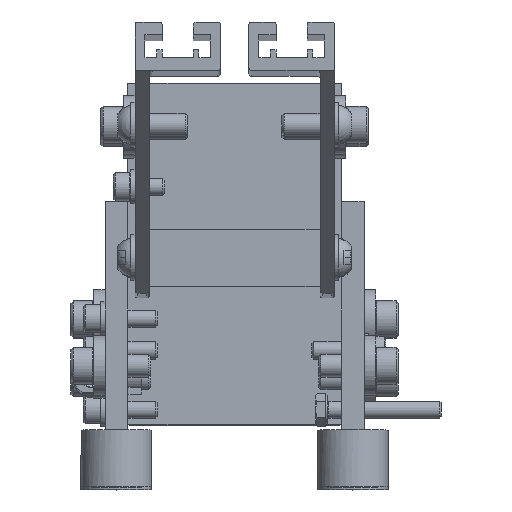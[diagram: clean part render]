
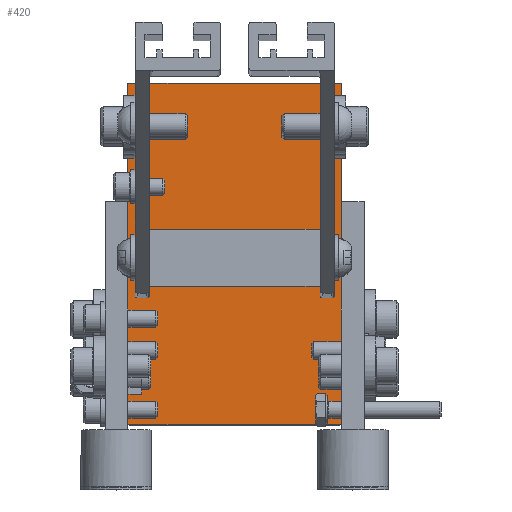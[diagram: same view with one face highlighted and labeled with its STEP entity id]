
A CAD part, top view. The second image highlights one B-rep face of the part: STEP entity #420.
In plain terms, the highlighted planar face has unit normal (0, 0, 1).
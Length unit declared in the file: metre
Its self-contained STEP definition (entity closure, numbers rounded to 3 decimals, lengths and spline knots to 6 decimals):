
#420 = ADVANCED_FACE( 'NONE', ( #1430 ), #1431, .T. );
#1430 = FACE_OUTER_BOUND( '', #2662, .T. );
#1431 = PLANE( '', #2663 );
#2662 = EDGE_LOOP( '', ( #5214, #5215, #5216, #5217, #5218, #5219, #5220, #5221, #5222, #5223 ) );
#2663 = AXIS2_PLACEMENT_3D( '', #5224, #5225, #5226 );
#5214 = ORIENTED_EDGE( '', *, *, #6226, .F. );
#5215 = ORIENTED_EDGE( '', *, *, #6141, .T. );
#5216 = ORIENTED_EDGE( '', *, *, #6344, .T. );
#5217 = ORIENTED_EDGE( '', *, *, #6149, .T. );
#5218 = ORIENTED_EDGE( '', *, *, #6240, .F. );
#5219 = ORIENTED_EDGE( '', *, *, #6345, .T. );
#5220 = ORIENTED_EDGE( '', *, *, #6155, .T. );
#5221 = ORIENTED_EDGE( '', *, *, #6273, .F. );
#5222 = ORIENTED_EDGE( '', *, *, #6096, .F. );
#5223 = ORIENTED_EDGE( '', *, *, #6272, .F. );
#5224 = CARTESIAN_POINT( '', ( 0.0375, -0.0195, -1.13 ) );
#5225 = DIRECTION( '', ( 0., 0., 1. ) );
#5226 = DIRECTION( '', ( 1., 0., 0. ) );
#6096 = EDGE_CURVE( 'NONE', #7184, #6534, #7284, .T. );
#6141 = EDGE_CURVE( 'NONE', #7359, #6876, #7360, .T. );
#6149 = EDGE_CURVE( 'NONE', #7370, #6846, #7371, .T. );
#6155 = EDGE_CURVE( 'NONE', #7381, #7148, #7382, .T. );
#6226 = EDGE_CURVE( 'NONE', #7359, #7497, #7498, .T. );
#6240 = EDGE_CURVE( 'NONE', #7521, #6846, #7522, .T. );
#6272 = EDGE_CURVE( 'NONE', #7497, #7184, #7568, .T. );
#6273 = EDGE_CURVE( 'NONE', #6534, #7148, #7569, .T. );
#6344 = EDGE_CURVE( 'NONE', #6876, #7370, #7669, .T. );
#6345 = EDGE_CURVE( 'NONE', #7521, #7381, #7670, .T. );
#6534 = VERTEX_POINT( 'NONE', #8056 );
#6846 = VERTEX_POINT( 'NONE', #8580 );
#6876 = VERTEX_POINT( 'NONE', #8619 );
#7148 = VERTEX_POINT( 'NONE', #8995 );
#7184 = VERTEX_POINT( 'NONE', #9041 );
#7284 = LINE( '', #9217, #9218 );
#7359 = VERTEX_POINT( 'NONE', #9341 );
#7360 = LINE( '', #9342, #9343 );
#7370 = VERTEX_POINT( 'NONE', #9359 );
#7371 = LINE( '', #9360, #9361 );
#7381 = VERTEX_POINT( 'NONE', #9373 );
#7382 = LINE( '', #9374, #9375 );
#7497 = VERTEX_POINT( 'NONE', #9569 );
#7498 = LINE( '', #9570, #9571 );
#7521 = VERTEX_POINT( 'NONE', #9603 );
#7522 = LINE( '', #9604, #9605 );
#7568 = LINE( '', #9681, #9682 );
#7569 = LINE( '', #9683, #9684 );
#7669 = LINE( '', #9851, #9852 );
#7670 = LINE( '', #9853, #9854 );
#8056 = CARTESIAN_POINT( '', ( -0.0375, -0.09825, -1.13 ) );
#8580 = CARTESIAN_POINT( '', ( 0.0375, -0.0625, -1.13 ) );
#8619 = CARTESIAN_POINT( '', ( 0.0375, -0.10675, -1.13 ) );
#8995 = CARTESIAN_POINT( '', ( -0.0375, -0.0625, -1.13 ) );
#9041 = CARTESIAN_POINT( '', ( -0.0375, -0.10675, -1.13 ) );
#9217 = CARTESIAN_POINT( '', ( -0.0375, -0.0625, -1.13 ) );
#9218 = VECTOR( '', #10832, 1. );
#9341 = CARTESIAN_POINT( '', ( 0.0375, -0.1395, -1.13 ) );
#9342 = CARTESIAN_POINT( '', ( 0.0375, -0.0625, -1.13 ) );
#9343 = VECTOR( '', #10926, 1. );
#9359 = CARTESIAN_POINT( '', ( 0.0375, -0.09825, -1.13 ) );
#9360 = CARTESIAN_POINT( '', ( 0.0375, -0.0625, -1.13 ) );
#9361 = VECTOR( '', #10936, 1. );
#9373 = CARTESIAN_POINT( '', ( -0.0375, -0.0195, -1.13 ) );
#9374 = CARTESIAN_POINT( '', ( -0.0375, -0.0195, -1.13 ) );
#9375 = VECTOR( '', #10948, 1. );
#9569 = CARTESIAN_POINT( '', ( -0.0375, -0.1395, -1.13 ) );
#9570 = CARTESIAN_POINT( '', ( 0.0375, -0.1395, -1.13 ) );
#9571 = VECTOR( '', #11065, 1. );
#9603 = CARTESIAN_POINT( '', ( 0.0375, -0.0195, -1.13 ) );
#9604 = CARTESIAN_POINT( '', ( 0.0375, -0.0195, -1.13 ) );
#9605 = VECTOR( '', #11087, 1. );
#9681 = CARTESIAN_POINT( '', ( -0.0375, -0.0625, -1.13 ) );
#9682 = VECTOR( '', #11142, 1. );
#9683 = CARTESIAN_POINT( '', ( -0.0375, -0.0625, -1.13 ) );
#9684 = VECTOR( '', #11143, 1. );
#9851 = CARTESIAN_POINT( '', ( 0.0375, -0.0625, -1.13 ) );
#9852 = VECTOR( '', #11264, 1. );
#9853 = CARTESIAN_POINT( '', ( 0.0375, -0.0195, -1.13 ) );
#9854 = VECTOR( '', #11265, 1. );
#10832 = DIRECTION( '', ( 0., 1., 0. ) );
#10926 = DIRECTION( '', ( 0., 1., 0. ) );
#10936 = DIRECTION( '', ( 0., 1., 0. ) );
#10948 = DIRECTION( '', ( 0., -1., 0. ) );
#11065 = DIRECTION( '', ( -1., 0., 0. ) );
#11087 = DIRECTION( '', ( 0., -1., 0. ) );
#11142 = DIRECTION( '', ( 0., 1., 0. ) );
#11143 = DIRECTION( '', ( 0., 1., 0. ) );
#11264 = DIRECTION( '', ( 0., 1., 0. ) );
#11265 = DIRECTION( '', ( -1., 0., 0. ) );
